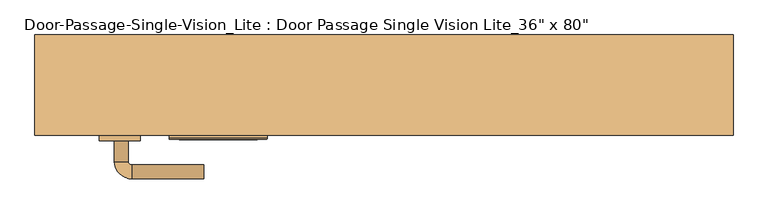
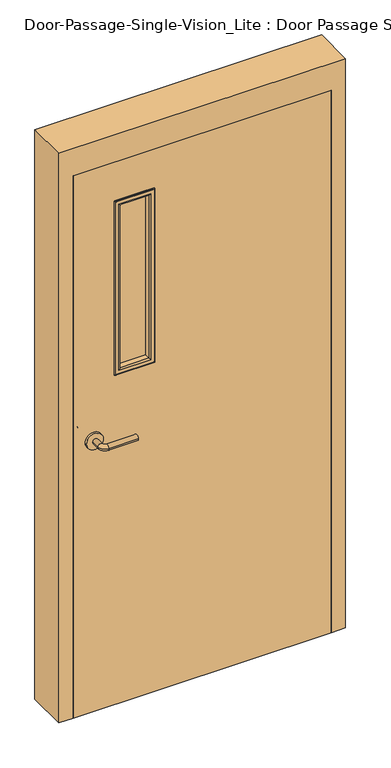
"""IFC4 building model written with IfcOpenShell, lengths in millimetres: door geometry."""

from ifc_helpers import new_model, si_unit, point, frame, frame_2d, origin, place, context, project, spatial, polyline, circle_curve, ellipse_curve, trimmed, segment, composite_curve, outline, extrude, faceted_brep, source, transform, mapped, element, save
from ifc_brep_helpers import plane_surface, cylinder_surface, revolved_surface, advanced_brep


def door_a53d2063(model_context):
    return source(origin(), model_context, "Body", "SolidModel", [
        advanced_brep(
        [(-392.190625, -20.575, 1016.0), (-372.190625, -20.575, 1016.0), (-392.190625, 9.425, 1016.0), (-372.190625, 9.425, 1016.0), (-367.190625, 14.425, 1016.0), (-367.190625, 34.425, 1016.0), (-262.190625, 34.425, 1016.0), (-262.190625, 14.425, 1016.0)],
        [
            (0, 1, circle_curve(frame((-382.190625, -20.575, 1016.0), z_axis=(0.0, -1.0, 0.0), x_axis=(1.0, 0.0, 0.0)), 10.0)),
            (1, 0, circle_curve(frame((-382.190625, -20.575, 1016.0), z_axis=(0.0, -1.0, 0.0), x_axis=(1.0, 0.0, 0.0)), 10.0)),
            (0, 2),
            (2, 3, circle_curve(frame((-382.190625, 9.425, 1016.0), z_axis=(0.0, -1.0, 0.0), x_axis=(1.0, 0.0, 0.0)), 10.0)),
            (3, 1),
            (3, 2, circle_curve(frame((-382.190625, 9.425, 1016.0), z_axis=(0.0, -1.0, 0.0), x_axis=(1.0, 0.0, 0.0)), 10.0)),
            (4, 3, circle_curve(frame((-367.190625, 9.425, 1016.0), z_axis=(0.0, 0.0, 1.0), x_axis=(-1.0, 0.0, 0.0)), 5.0)),
            (2, 5, circle_curve(frame((-367.190625, 9.425, 1016.0), z_axis=(0.0, 0.0, -1.0), x_axis=(-1.0, 0.0, 0.0)), 25.0)),
            (5, 4, circle_curve(frame((-367.190625, 24.425, 1016.0), z_axis=(-1.0, 0.0, 0.0), x_axis=(0.0, -1.0, 0.0)), 10.0)),
            (4, 5, circle_curve(frame((-367.190625, 24.425, 1016.0), z_axis=(-1.0, 0.0, 0.0), x_axis=(0.0, -1.0, 0.0)), 10.0)),
            (6, 7, circle_curve(frame((-262.190625, 24.425, 1016.0), z_axis=(1.0, 0.0, 0.0), x_axis=(0.0, -1.0, 0.0)), 10.0)),
            (7, 6, circle_curve(frame((-262.190625, 24.425, 1016.0), z_axis=(1.0, 0.0, 0.0), x_axis=(0.0, -1.0, 0.0)), 10.0)),
            (5, 6),
            (7, 4),
        ],
        [
            plane_surface(frame((-382.190625, -20.575, 1016.0), z_axis=(0.0, -1.0, 0.0), x_axis=(0.0, 0.0, 1.0))),
            cylinder_surface(frame((-382.190625, -20.575, 1016.0), z_axis=(0.0, -1.0, 0.0), x_axis=(1.0, 0.0, 0.0)), 10.0),
            revolved_surface(trimmed(ellipse_curve(frame((-382.190625, 9.425, 1016.0), z_axis=(0.0, -1.0, 0.0), x_axis=(1.0, 0.0, 0.0)), 10.0, 10.0), [point((-392.190625, 9.425, 1016.0))], [point((-372.190625, 9.425, 1016.0))], True, "CARTESIAN"), (-367.190625, 9.425, 1016.0), (0.0, 0.0, -1.0)),
            revolved_surface(trimmed(ellipse_curve(frame((-382.190625, 9.425, 1016.0), z_axis=(0.0, -1.0, 0.0), x_axis=(1.0, 0.0, 0.0)), 10.0, 10.0), [point((-372.190625, 9.425, 1016.0))], [point((-392.190625, 9.425, 1016.0))], True, "CARTESIAN"), (-367.190625, 9.425, 1016.0), (0.0, 0.0, -1.0)),
            plane_surface(frame((-262.190625, 24.425, 1016.0), z_axis=(1.0, 0.0, 0.0), x_axis=(0.0, 0.0, 1.0))),
            cylinder_surface(frame((-367.190625, 24.425, 1016.0), z_axis=(-1.0, 0.0, 0.0), x_axis=(0.0, -1.0, 0.0)), 10.0),
        ],
        [
            (0, [[1, 2]]),
            (1, [[-1, 3, 4, 5]]),
            (1, [[-2, -5, 6, -3]]),
            (2, [[7, -4, 8, 9]]),
            (3, [[-8, -6, -7, 10]]),
            (4, [[11, 12]]),
            (5, [[-9, 13, -12, 14]]),
            (5, [[-10, -14, -11, -13]]),
        ],
    ),
        extrude(outline(composite_curve([segment(trimmed(circle_curve(frame_2d((1016.0, -384.690625)), 30.0), [point((1016.0, -414.690625))], [point((1016.0, -354.690625))], False, "CARTESIAN"), True, "CONTINUOUS"), segment(trimmed(circle_curve(frame_2d((1016.0, -384.690625)), 30.0), [point((1016.0, -354.690625))], [point((1016.0, -414.690625))], False, "CARTESIAN"), True, "CONTINUOUS")], self_intersect=False)), frame((0.0, -28.575, 0.0), z_axis=(0.0, 1.0, 0.0), x_axis=(0.0, 0.0, 1.0)), (0.0, 0.0, 1.0), 8.0),
        advanced_brep(
        [(-392.190625, -81.025, 1016.0), (-372.190625, -81.025, 1016.0), (-372.190625, -111.025, 1016.0), (-392.190625, -111.025, 1016.0), (-367.190625, -116.025, 1016.0), (-367.190625, -136.025, 1016.0), (-262.190625, -136.025, 1016.0), (-262.190625, -116.025, 1016.0)],
        [
            (0, 1, circle_curve(frame((-382.190625, -81.025, 1016.0), z_axis=(0.0, 1.0, 0.0), x_axis=(1.0, 0.0, 0.0)), 10.0)),
            (1, 0, circle_curve(frame((-382.190625, -81.025, 1016.0), z_axis=(0.0, 1.0, 0.0), x_axis=(1.0, 0.0, 0.0)), 10.0)),
            (1, 2),
            (2, 3, circle_curve(frame((-382.190625, -111.025, 1016.0), z_axis=(0.0, 1.0, 0.0), x_axis=(1.0, 0.0, 0.0)), 10.0)),
            (3, 0),
            (3, 2, circle_curve(frame((-382.190625, -111.025, 1016.0), z_axis=(0.0, 1.0, 0.0), x_axis=(1.0, 0.0, 0.0)), 10.0)),
            (4, 5, circle_curve(frame((-367.190625, -126.025, 1016.0), z_axis=(-1.0, 0.0, 0.0), x_axis=(0.0, 1.0, 0.0)), 10.0)),
            (5, 3, circle_curve(frame((-367.190625, -111.025, 1016.0), z_axis=(0.0, 0.0, -1.0), x_axis=(-1.0, 0.0, 0.0)), 25.0)),
            (2, 4, circle_curve(frame((-367.190625, -111.025, 1016.0), z_axis=(0.0, 0.0, 1.0), x_axis=(-1.0, 0.0, 0.0)), 5.0)),
            (5, 4, circle_curve(frame((-367.190625, -126.025, 1016.0), z_axis=(-1.0, 0.0, 0.0), x_axis=(0.0, 1.0, 0.0)), 10.0)),
            (6, 7, circle_curve(frame((-262.190625, -126.025, 1016.0), z_axis=(1.0, 0.0, 0.0), x_axis=(0.0, 1.0, 0.0)), 10.0)),
            (7, 6, circle_curve(frame((-262.190625, -126.025, 1016.0), z_axis=(1.0, 0.0, 0.0), x_axis=(0.0, 1.0, 0.0)), 10.0)),
            (4, 7),
            (6, 5),
        ],
        [
            plane_surface(frame((-382.190625, -81.025, 1016.0), z_axis=(0.0, 1.0, 0.0), x_axis=(0.0, 0.0, 1.0))),
            cylinder_surface(frame((-382.190625, -81.025, 1016.0), z_axis=(0.0, 1.0, 0.0), x_axis=(1.0, 0.0, 0.0)), 10.0),
            revolved_surface(trimmed(ellipse_curve(frame((-382.190625, -111.025, 1016.0), z_axis=(0.0, -1.0, 0.0), x_axis=(1.0, 0.0, 0.0)), 10.0, 10.0), [point((-392.190625, -111.025, 1016.0))], [point((-372.190625, -111.025, 1016.0))], True, "CARTESIAN"), (-367.190625, -111.025, 1016.0), (0.0, 0.0, -1.0)),
            revolved_surface(trimmed(ellipse_curve(frame((-382.190625, -111.025, 1016.0), z_axis=(0.0, -1.0, 0.0), x_axis=(1.0, 0.0, 0.0)), 10.0, 10.0), [point((-372.190625, -111.025, 1016.0))], [point((-392.190625, -111.025, 1016.0))], True, "CARTESIAN"), (-367.190625, -111.025, 1016.0), (0.0, 0.0, -1.0)),
            plane_surface(frame((-262.190625, -126.025, 1016.0), z_axis=(1.0, 0.0, 0.0), x_axis=(0.0, 0.0, 1.0))),
            cylinder_surface(frame((-367.190625, -126.025, 1016.0), z_axis=(-1.0, 0.0, 0.0), x_axis=(0.0, 1.0, 0.0)), 10.0),
        ],
        [
            (0, [[1, 2]]),
            (1, [[3, 4, 5, -2]]),
            (1, [[-5, 6, -3, -1]]),
            (2, [[7, 8, -4, 9]]),
            (3, [[10, -9, -6, -8]]),
            (4, [[11, 12]]),
            (5, [[13, -11, 14, -7]]),
            (5, [[-14, -12, -13, -10]]),
        ],
    ),
        extrude(outline(composite_curve([segment(trimmed(circle_curve(frame_2d((1016.0, -384.690625)), 30.0), [point((1016.0, -414.690625))], [point((1016.0, -354.690625))], False, "CARTESIAN"), True, "CONTINUOUS"), segment(trimmed(circle_curve(frame_2d((1016.0, -384.690625)), 30.0), [point((1016.0, -354.690625))], [point((1016.0, -414.690625))], False, "CARTESIAN"), True, "CONTINUOUS")], self_intersect=False)), frame((0.0, -81.025, 0.0), z_axis=(0.0, 1.0, 0.0), x_axis=(0.0, 0.0, 1.0)), (0.0, 0.0, 1.0), 8.0),
        faceted_brep([(457.2, -23.8125, 0.0), (441.325, -23.8125, 0.0), (441.325, 23.8125, 0.0), (457.2, 23.8125, 0.0), (457.2, 73.025, 0.0), (508.0, 73.025, 0.0), (508.0, -73.025, 0.0), (457.2, -73.025, 0.0), (457.2, -73.025, 2032.0), (457.2, -23.8125, 2032.0), (508.0, -73.025, 2133.6), (-508.0, -73.025, 2133.6), (-508.0, -73.025, 0.0), (-457.2, -73.025, 0.0), (-457.2, -73.025, 2032.0), (508.0, 73.025, 2133.6), (457.2, 73.025, 2032.0), (-457.2, 73.025, 2032.0), (-457.2, 73.025, 0.0), (-508.0, 73.025, 0.0), (-508.0, 73.025, 2133.6), (457.2, 23.8125, 2032.0), (441.325, 23.8125, 2016.125), (-441.325, 23.8125, 2016.125), (-441.325, 23.8125, 0.0), (-457.2, 23.8125, 0.0), (-457.2, 23.8125, 2032.0), (441.325, -23.8125, 2016.125), (-457.2, -23.8125, 2032.0), (-457.2, -23.8125, 0.0), (-441.325, -23.8125, 0.0), (-441.325, -23.8125, 2016.125)], [[[0, 1, 2, 3, 4, 5, 6, 7]], [[7, 8, 9, 0]], [[6, 10, 11, 12, 13, 14, 8, 7]], [[5, 15, 10, 6]], [[4, 16, 17, 18, 19, 20, 15, 5]], [[3, 21, 16, 4]], [[2, 22, 23, 24, 25, 26, 21, 3]], [[1, 27, 22, 2]], [[0, 9, 28, 29, 30, 31, 27, 1]], [[8, 14, 28, 9]], [[16, 21, 26, 17]], [[22, 27, 31, 23]], [[12, 19, 18, 25, 24, 30, 29, 13]], [[13, 29, 28, 14]], [[11, 20, 19, 12]], [[17, 26, 25, 18]], [[23, 31, 30, 24]], [[15, 20, 11, 10]]]),
        extrude(outline(polyline([(2032.0, -457.2), (0.0, -457.2), (0.0, 457.2), (2032.0, 457.2), (2032.0, -457.2)]), holes=[polyline([(1879.6, -304.8), (1879.6, -177.8), (1244.6, -177.8), (1244.6, -304.8), (1879.6, -304.8)])]), frame((0.0, -73.025, 0.0), z_axis=(0.0, 1.0, 0.0), x_axis=(0.0, 0.0, 1.0)), (0.0, 0.0, 1.0), 44.45),
        extrude(outline(polyline([(-177.8, -47.625), (-177.8, -53.975), (-304.8, -53.975), (-304.8, -47.625), (-177.8, -47.625)])), frame((0.0, 0.0, 1244.6), z_axis=(0.0, 0.0, 1.0), x_axis=(1.0, 0.0, 0.0)), (0.0, 0.0, 1.0), 635.0),
        advanced_brep(
        [(-304.8, -47.625, 1244.6), (-304.8, -47.625, 1879.6), (-304.8, -28.575, 1879.6), (-304.8, -28.575, 1244.6), (-292.8, -27.575, 1256.6), (-292.8, -27.575, 1867.6), (-292.8, -47.625, 1867.6), (-292.8, -47.625, 1256.6), (-297.8, -22.575, 1251.6), (-297.8, -22.575, 1872.6), (-312.8, -24.575, 1236.6), (-312.8, -24.575, 1887.6), (-310.8, -22.575, 1885.6), (-310.8, -22.575, 1238.6), (-312.8, -28.575, 1236.6), (-312.8, -28.575, 1887.6), (-177.8, -47.625, 1879.6), (-177.8, -28.575, 1879.6), (-189.8, -27.575, 1867.6), (-189.8, -47.625, 1867.6), (-184.8, -22.575, 1872.6), (-169.8, -24.575, 1887.6), (-171.8, -22.575, 1885.6), (-169.8, -28.575, 1887.6), (-177.8, -47.625, 1244.6), (-177.8, -28.575, 1244.6), (-189.8, -27.575, 1256.6), (-189.8, -47.625, 1256.6), (-184.8, -22.575, 1251.6), (-169.8, -24.575, 1236.6), (-171.8, -22.575, 1238.6), (-169.8, -28.575, 1236.6)],
        [
            (0, 1),
            (1, 2),
            (2, 3),
            (3, 0),
            (4, 5),
            (5, 6),
            (6, 7),
            (7, 4),
            (8, 9),
            (9, 5, ellipse_curve(frame((-297.8, -27.575, 1872.6), z_axis=(-0.7071067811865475, 0.0, -0.7071067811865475), x_axis=(0.7071067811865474, 0.0, -0.7071067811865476)), 7.0710678, 5.0)),
            (4, 8, ellipse_curve(frame((-297.8, -27.575, 1251.6), z_axis=(-0.7071067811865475, 0.0, 0.7071067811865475), x_axis=(-0.7071067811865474, 0.0, -0.7071067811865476)), 7.0710678, 5.0)),
            (10, 11),
            (11, 12, ellipse_curve(frame((-310.8, -24.575, 1885.6), z_axis=(-0.7071067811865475, 0.0, -0.7071067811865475), x_axis=(0.7071067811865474, 0.0, -0.7071067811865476)), 2.8284271, 2.0)),
            (12, 13),
            (13, 10, ellipse_curve(frame((-310.8, -24.575, 1238.6), z_axis=(-0.7071067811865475, 0.0, 0.7071067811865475), x_axis=(-0.7071067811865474, 0.0, -0.7071067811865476)), 2.8284271, 2.0)),
            (14, 15),
            (15, 11),
            (10, 14),
            (1, 16),
            (16, 17),
            (17, 2),
            (5, 18),
            (18, 19),
            (19, 6),
            (9, 20),
            (20, 18, ellipse_curve(frame((-184.8, -27.575, 1872.6), z_axis=(-0.7071067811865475, 0.0, 0.7071067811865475), x_axis=(-0.7071067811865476, 0.0, -0.7071067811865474)), 7.0710678, 5.0)),
            (11, 21),
            (21, 22, ellipse_curve(frame((-171.8, -24.575, 1885.6), z_axis=(-0.7071067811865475, 0.0, 0.7071067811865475), x_axis=(-0.7071067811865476, 0.0, -0.7071067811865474)), 2.8284271, 2.0)),
            (22, 12),
            (15, 23),
            (23, 21),
            (16, 24),
            (24, 25),
            (25, 17),
            (18, 26),
            (26, 27),
            (27, 19),
            (20, 28),
            (28, 26, ellipse_curve(frame((-184.8, -27.575, 1251.6), z_axis=(0.7071067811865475, 0.0, 0.7071067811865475), x_axis=(-0.7071067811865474, 0.0, 0.7071067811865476)), 7.0710678, 5.0)),
            (21, 29),
            (29, 30, ellipse_curve(frame((-171.8, -24.575, 1238.6), z_axis=(0.7071067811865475, 0.0, 0.7071067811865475), x_axis=(-0.7071067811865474, 0.0, 0.7071067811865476)), 2.8284271, 2.0)),
            (30, 22),
            (23, 31),
            (31, 29),
            (14, 31),
            (25, 3),
            (24, 0),
            (27, 7),
            (26, 4),
            (28, 8),
            (30, 13),
            (29, 10),
        ],
        [
            plane_surface(frame((-304.8, -28.575, 1244.6), z_axis=(-1.0, 0.0, 0.0), x_axis=(0.0, 0.0, 1.0))),
            plane_surface(frame((-292.8, -47.625, 1256.6), z_axis=(1.0, 0.0, 0.0), x_axis=(0.0, 0.0, 1.0))),
            cylinder_surface(frame((-297.8, -27.575, 1244.6), z_axis=(0.0, 0.0, -1.0), x_axis=(-1.0, 0.0, 0.0)), 5.0),
            cylinder_surface(frame((-310.8, -24.575, 1244.6), z_axis=(0.0, 0.0, -1.0), x_axis=(-1.0, 0.0, 0.0)), 2.0),
            plane_surface(frame((-312.8, -24.575, 1236.6), z_axis=(-1.0, 0.0, 0.0), x_axis=(0.0, 0.0, 1.0))),
            plane_surface(frame((-304.8, -28.575, 1879.6), z_axis=(0.0, 0.0, 1.0), x_axis=(1.0, 0.0, 0.0))),
            plane_surface(frame((-292.8, -47.625, 1867.6), z_axis=(0.0, 0.0, -1.0), x_axis=(1.0, 0.0, 0.0))),
            cylinder_surface(frame((-304.8, -27.575, 1872.6), z_axis=(-1.0, 0.0, 0.0), x_axis=(0.0, 0.0, 1.0)), 5.0),
            cylinder_surface(frame((-304.8, -24.575, 1885.6), z_axis=(-1.0, 0.0, 0.0), x_axis=(0.0, 0.0, 1.0)), 2.0),
            plane_surface(frame((-312.8, -24.575, 1887.6), z_axis=(0.0, 0.0, 1.0), x_axis=(1.0, 0.0, 0.0))),
            plane_surface(frame((-177.8, -28.575, 1879.6), z_axis=(1.0, 0.0, 0.0), x_axis=(0.0, 0.0, -1.0))),
            plane_surface(frame((-189.8, -47.625, 1867.6), z_axis=(-1.0, 0.0, 0.0), x_axis=(0.0, 0.0, -1.0))),
            cylinder_surface(frame((-184.8, -27.575, 1879.6), z_axis=(0.0, 0.0, 1.0), x_axis=(1.0, 0.0, 0.0)), 5.0),
            cylinder_surface(frame((-171.8, -24.575, 1879.6), z_axis=(0.0, 0.0, 1.0), x_axis=(1.0, 0.0, 0.0)), 2.0),
            plane_surface(frame((-169.8, -24.575, 1887.6), z_axis=(1.0, 0.0, 0.0), x_axis=(0.0, 0.0, -1.0))),
            plane_surface(frame((-169.8, -28.575, 1236.6), z_axis=(0.0, -1.0, 0.0), x_axis=(-1.0, 0.0, 0.0))),
            plane_surface(frame((-177.8, -28.575, 1244.6), z_axis=(0.0, 0.0, -1.0), x_axis=(-1.0, 0.0, 0.0))),
            plane_surface(frame((-177.8, -47.625, 1244.6), z_axis=(0.0, -1.0, 0.0), x_axis=(-1.0, 0.0, 0.0))),
            plane_surface(frame((-189.8, -47.625, 1256.6), z_axis=(0.0, 0.0, 1.0), x_axis=(-1.0, 0.0, 0.0))),
            cylinder_surface(frame((-177.8, -27.575, 1251.6), z_axis=(1.0, 0.0, 0.0), x_axis=(0.0, 0.0, -1.0)), 5.0),
            plane_surface(frame((-184.8, -22.575, 1251.6), z_axis=(0.0, 1.0, 0.0), x_axis=(-1.0, 0.0, 0.0))),
            cylinder_surface(frame((-177.8, -24.575, 1238.6), z_axis=(1.0, 0.0, 0.0), x_axis=(0.0, 0.0, -1.0)), 2.0),
            plane_surface(frame((-169.8, -24.575, 1236.6), z_axis=(0.0, 0.0, -1.0), x_axis=(-1.0, 0.0, 0.0))),
        ],
        [
            (0, [[1, 2, 3, 4]]),
            (1, [[5, 6, 7, 8]]),
            (2, [[9, 10, -5, 11]]),
            (3, [[12, 13, 14, 15]]),
            (4, [[16, 17, -12, 18]]),
            (5, [[19, 20, 21, -2]]),
            (6, [[22, 23, 24, -6]]),
            (7, [[25, 26, -22, -10]]),
            (8, [[27, 28, 29, -13]]),
            (9, [[30, 31, -27, -17]]),
            (10, [[32, 33, 34, -20]]),
            (11, [[35, 36, 37, -23]]),
            (12, [[38, 39, -35, -26]]),
            (13, [[40, 41, 42, -28]]),
            (14, [[43, 44, -40, -31]]),
            (15, [[-16, 45, -43, -30], [-3, -21, -34, 46]]),
            (16, [[47, -4, -46, -33]]),
            (17, [[-1, -47, -32, -19], [-7, -24, -37, 48]]),
            (18, [[49, -8, -48, -36]]),
            (19, [[50, -11, -49, -39]]),
            (20, [[-14, -29, -42, 51], [-9, -50, -38, -25]]),
            (21, [[52, -15, -51, -41]]),
            (22, [[-45, -18, -52, -44]]),
        ],
    ),
        advanced_brep(
        [(-304.8, -53.975, 1879.6), (-304.8, -53.975, 1244.6), (-304.8, -73.025, 1244.6), (-304.8, -73.025, 1879.6), (-292.8, -74.025, 1867.6), (-292.8, -74.025, 1256.6), (-292.8, -53.975, 1256.6), (-292.8, -53.975, 1867.6), (-297.8, -79.025, 1872.6), (-297.8, -79.025, 1251.6), (-312.8, -77.025, 1887.6), (-312.8, -77.025, 1236.6), (-310.8, -79.025, 1238.6), (-310.8, -79.025, 1885.6), (-312.8, -73.025, 1887.6), (-312.8, -73.025, 1236.6), (-177.8, -53.975, 1244.6), (-177.8, -73.025, 1244.6), (-189.8, -74.025, 1256.6), (-189.8, -53.975, 1256.6), (-184.8, -79.025, 1251.6), (-169.8, -77.025, 1236.6), (-171.8, -79.025, 1238.6), (-169.8, -73.025, 1236.6), (-177.8, -53.975, 1879.6), (-177.8, -73.025, 1879.6), (-189.8, -74.025, 1867.6), (-189.8, -53.975, 1867.6), (-184.8, -79.025, 1872.6), (-169.8, -77.025, 1887.6), (-171.8, -79.025, 1885.6), (-169.8, -73.025, 1887.6)],
        [
            (0, 1),
            (1, 2),
            (2, 3),
            (3, 0),
            (4, 5),
            (5, 6),
            (6, 7),
            (7, 4),
            (8, 9),
            (9, 5, ellipse_curve(frame((-297.8, -74.025, 1251.6), z_axis=(-0.7071067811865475, 0.0, 0.7071067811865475), x_axis=(0.7071067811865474, 0.0, 0.7071067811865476)), 7.0710678, 5.0)),
            (4, 8, ellipse_curve(frame((-297.8, -74.025, 1872.6), z_axis=(-0.7071067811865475, 0.0, -0.7071067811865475), x_axis=(-0.7071067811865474, 0.0, 0.7071067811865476)), 7.0710678, 5.0)),
            (10, 11),
            (11, 12, ellipse_curve(frame((-310.8, -77.025, 1238.6), z_axis=(-0.7071067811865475, 0.0, 0.7071067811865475), x_axis=(0.7071067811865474, 0.0, 0.7071067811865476)), 2.8284271, 2.0)),
            (12, 13),
            (13, 10, ellipse_curve(frame((-310.8, -77.025, 1885.6), z_axis=(-0.7071067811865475, 0.0, -0.7071067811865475), x_axis=(-0.7071067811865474, 0.0, 0.7071067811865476)), 2.8284271, 2.0)),
            (14, 15),
            (15, 11),
            (10, 14),
            (1, 16),
            (16, 17),
            (17, 2),
            (5, 18),
            (18, 19),
            (19, 6),
            (9, 20),
            (20, 18, ellipse_curve(frame((-184.8, -74.025, 1251.6), z_axis=(-0.7071067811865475, 0.0, -0.7071067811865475), x_axis=(-0.7071067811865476, 0.0, 0.7071067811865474)), 7.0710678, 5.0)),
            (11, 21),
            (21, 22, ellipse_curve(frame((-171.8, -77.025, 1238.6), z_axis=(-0.7071067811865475, 0.0, -0.7071067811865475), x_axis=(-0.7071067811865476, 0.0, 0.7071067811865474)), 2.8284271, 2.0)),
            (22, 12),
            (15, 23),
            (23, 21),
            (16, 24),
            (24, 25),
            (25, 17),
            (18, 26),
            (26, 27),
            (27, 19),
            (20, 28),
            (28, 26, ellipse_curve(frame((-184.8, -74.025, 1872.6), z_axis=(0.7071067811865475, 0.0, -0.7071067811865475), x_axis=(-0.7071067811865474, 0.0, -0.7071067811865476)), 7.0710678, 5.0)),
            (21, 29),
            (29, 30, ellipse_curve(frame((-171.8, -77.025, 1885.6), z_axis=(0.7071067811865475, 0.0, -0.7071067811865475), x_axis=(-0.7071067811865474, 0.0, -0.7071067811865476)), 2.8284271, 2.0)),
            (30, 22),
            (23, 31),
            (31, 29),
            (14, 31),
            (25, 3),
            (24, 0),
            (27, 7),
            (26, 4),
            (28, 8),
            (30, 13),
            (29, 10),
        ],
        [
            plane_surface(frame((-304.8, -73.025, 1879.6), z_axis=(-1.0, 0.0, 0.0), x_axis=(0.0, 0.0, -1.0))),
            plane_surface(frame((-292.8, -53.975, 1867.6), z_axis=(1.0, 0.0, 0.0), x_axis=(0.0, 0.0, -1.0))),
            cylinder_surface(frame((-297.8, -74.025, 1879.6), z_axis=(0.0, 0.0, 1.0), x_axis=(-1.0, 0.0, 0.0)), 5.0),
            cylinder_surface(frame((-310.8, -77.025, 1879.6), z_axis=(0.0, 0.0, 1.0), x_axis=(-1.0, 0.0, 0.0)), 2.0),
            plane_surface(frame((-312.8, -77.025, 1887.6), z_axis=(-1.0, 0.0, 0.0), x_axis=(0.0, 0.0, -1.0))),
            plane_surface(frame((-304.8, -73.025, 1244.6), z_axis=(0.0, 0.0, -1.0), x_axis=(1.0, 0.0, 0.0))),
            plane_surface(frame((-292.8, -53.975, 1256.6), z_axis=(0.0, 0.0, 1.0), x_axis=(1.0, 0.0, 0.0))),
            cylinder_surface(frame((-304.8, -74.025, 1251.6), z_axis=(-1.0, 0.0, 0.0), x_axis=(0.0, 0.0, -1.0)), 5.0),
            cylinder_surface(frame((-304.8, -77.025, 1238.6), z_axis=(-1.0, 0.0, 0.0), x_axis=(0.0, 0.0, -1.0)), 2.0),
            plane_surface(frame((-312.8, -77.025, 1236.6), z_axis=(0.0, 0.0, -1.0), x_axis=(1.0, 0.0, 0.0))),
            plane_surface(frame((-177.8, -73.025, 1244.6), z_axis=(1.0, 0.0, 0.0), x_axis=(0.0, 0.0, 1.0))),
            plane_surface(frame((-189.8, -53.975, 1256.6), z_axis=(-1.0, 0.0, 0.0), x_axis=(0.0, 0.0, 1.0))),
            cylinder_surface(frame((-184.8, -74.025, 1244.6), z_axis=(0.0, 0.0, -1.0), x_axis=(1.0, 0.0, 0.0)), 5.0),
            cylinder_surface(frame((-171.8, -77.025, 1244.6), z_axis=(0.0, 0.0, -1.0), x_axis=(1.0, 0.0, 0.0)), 2.0),
            plane_surface(frame((-169.8, -77.025, 1236.6), z_axis=(1.0, 0.0, 0.0), x_axis=(0.0, 0.0, 1.0))),
            plane_surface(frame((-169.8, -73.025, 1887.6), z_axis=(0.0, 1.0, 0.0), x_axis=(-1.0, 0.0, 0.0))),
            plane_surface(frame((-177.8, -73.025, 1879.6), z_axis=(0.0, 0.0, 1.0), x_axis=(-1.0, 0.0, 0.0))),
            plane_surface(frame((-177.8, -53.975, 1879.6), z_axis=(0.0, 1.0, 0.0), x_axis=(-1.0, 0.0, 0.0))),
            plane_surface(frame((-189.8, -53.975, 1867.6), z_axis=(0.0, 0.0, -1.0), x_axis=(-1.0, 0.0, 0.0))),
            cylinder_surface(frame((-177.8, -74.025, 1872.6), z_axis=(1.0, 0.0, 0.0), x_axis=(0.0, 0.0, 1.0)), 5.0),
            plane_surface(frame((-184.8, -79.025, 1872.6), z_axis=(0.0, -1.0, 0.0), x_axis=(-1.0, 0.0, 0.0))),
            cylinder_surface(frame((-177.8, -77.025, 1885.6), z_axis=(1.0, 0.0, 0.0), x_axis=(0.0, 0.0, 1.0)), 2.0),
            plane_surface(frame((-169.8, -77.025, 1887.6), z_axis=(0.0, 0.0, 1.0), x_axis=(-1.0, 0.0, 0.0))),
        ],
        [
            (0, [[1, 2, 3, 4]]),
            (1, [[5, 6, 7, 8]]),
            (2, [[9, 10, -5, 11]]),
            (3, [[12, 13, 14, 15]]),
            (4, [[16, 17, -12, 18]]),
            (5, [[19, 20, 21, -2]]),
            (6, [[22, 23, 24, -6]]),
            (7, [[25, 26, -22, -10]]),
            (8, [[27, 28, 29, -13]]),
            (9, [[30, 31, -27, -17]]),
            (10, [[32, 33, 34, -20]]),
            (11, [[35, 36, 37, -23]]),
            (12, [[38, 39, -35, -26]]),
            (13, [[40, 41, 42, -28]]),
            (14, [[43, 44, -40, -31]]),
            (15, [[-16, 45, -43, -30], [-3, -21, -34, 46]]),
            (16, [[47, -4, -46, -33]]),
            (17, [[-1, -47, -32, -19], [-7, -24, -37, 48]]),
            (18, [[49, -8, -48, -36]]),
            (19, [[50, -11, -49, -39]]),
            (20, [[-14, -29, -42, 51], [-9, -50, -38, -25]]),
            (21, [[52, -15, -51, -41]]),
            (22, [[-45, -18, -52, -44]]),
        ],
    ),
    ])


if __name__ == "__main__":
    model = new_model("IFC4")
    model_context = context("Model", 3, world=origin())
    ifc_project = project(units=[si_unit("LENGTHUNIT", "METRE", prefix="MILLI")], contexts=[model_context])
    site = spatial("IfcSite", under=ifc_project)
    building = spatial("IfcBuilding", under=site)
    placement = place(None, origin())
    door_shape = door_a53d2063(model_context)
    element("IfcDoor", 1, ObjectType="Door-Passage-Single-Vision_Lite : Door Passage Single Vision Lite_36\" x 80\"", at=placement, inside=building, context=model_context, shape_type="MappedRepresentation", body=[
        mapped(door_shape, transform((0.0, 0.0, 0.0), x_axis=(1.0, 0.0, 0.0), y_axis=(0.0, 1.0, 0.0), z_axis=(0.0, 0.0, 1.0))),
    ])
    save(model, "model.ifc")
